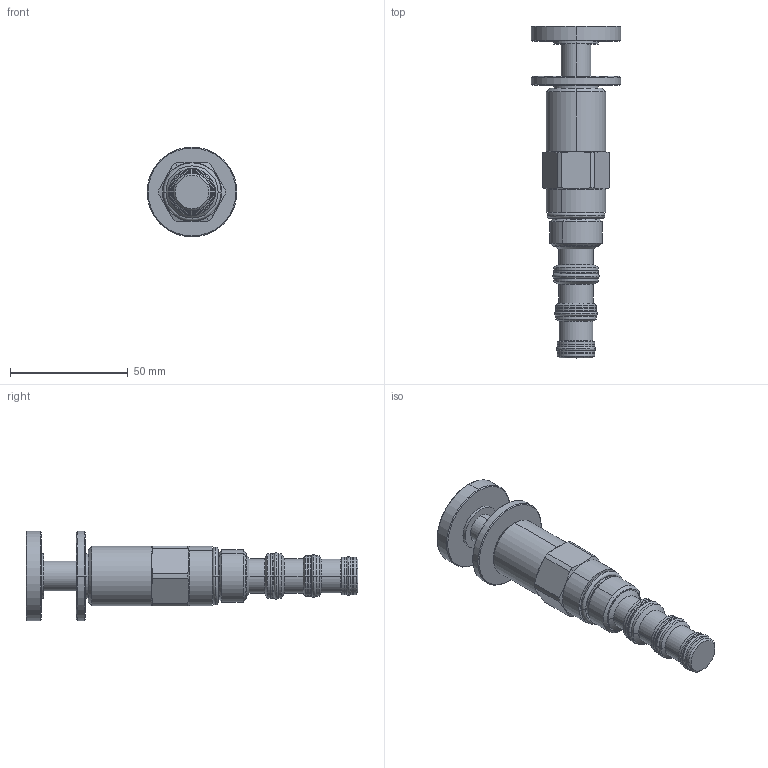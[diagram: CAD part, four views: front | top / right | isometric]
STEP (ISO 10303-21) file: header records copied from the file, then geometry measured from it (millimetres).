
FILE_DESCRIPTION((''),'2;1');
FILE_NAME('5618000_SW0002','2009-03-24T',('JCS'),(''),'PRO/ENGINEER BY PARAMETRIC TECHNOLOGY CORPORATION, 2008510','PRO/ENGINEER BY PARAMETRIC TECHNOLOGY CORPORATION, 2008510','');
FILE_SCHEMA(('CONFIG_CONTROL_DESIGN'));
Length unit declared in the file: inch
Products named in the file (1): 5618000_SW0002
Bounding box: 38.1 x 140.96 x 38.1 mm (x, y, z)
Volume: 55759.7 mm3; surface area: 17576.3 mm2
Topology: 5 solids, 5 shells, 236 faces, 502 edges, 291 vertices
Faces by surface type: cylinder 76, cone 50, plane 44, torus 34, revolution 32
Entity records: 7028 total; most frequent: CARTESIAN_POINT 1815, DIRECTION 1166, ORIENTED_EDGE 1000, EDGE_CURVE 500, AXIS2_PLACEMENT_3D 492, VERTEX_POINT 291, CIRCLE 288, EDGE_LOOP 261
